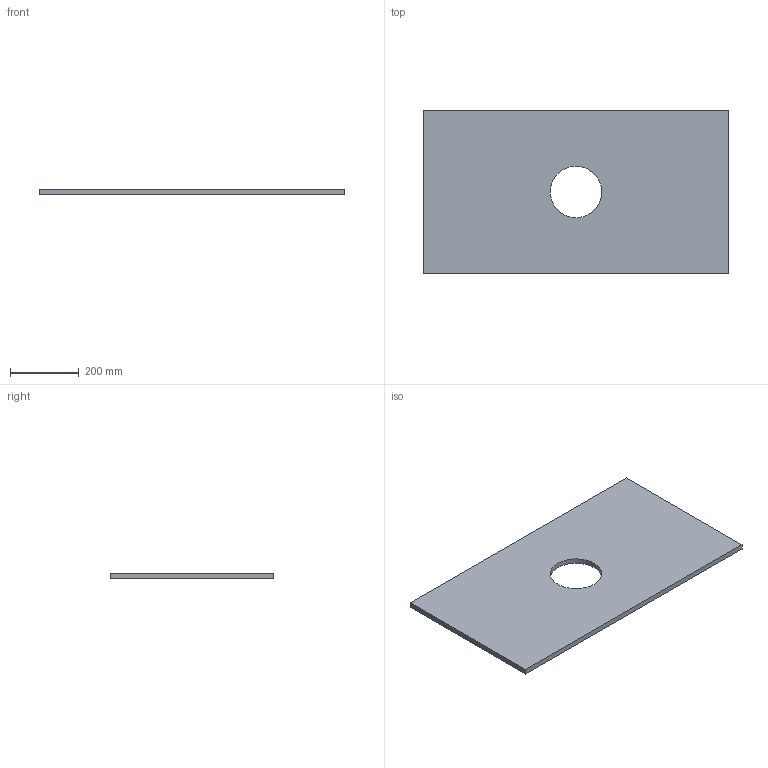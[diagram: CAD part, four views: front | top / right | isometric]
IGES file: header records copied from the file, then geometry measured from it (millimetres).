
Global section: file name: 510026; native system: Autodesk Inventor 2023; preprocessor: unknown; author: JANAN; date: 20241002.131759; units: millimetre
Bounding box: 892 x 477.5 x 16 mm (x, y, z)
Volume: 6531767.2 mm3; surface area: 867890.9 mm2
Topology: 1 solids, 1 shells, 7 faces, 15 edges, 10 vertices
Faces by surface type: bspline 7
